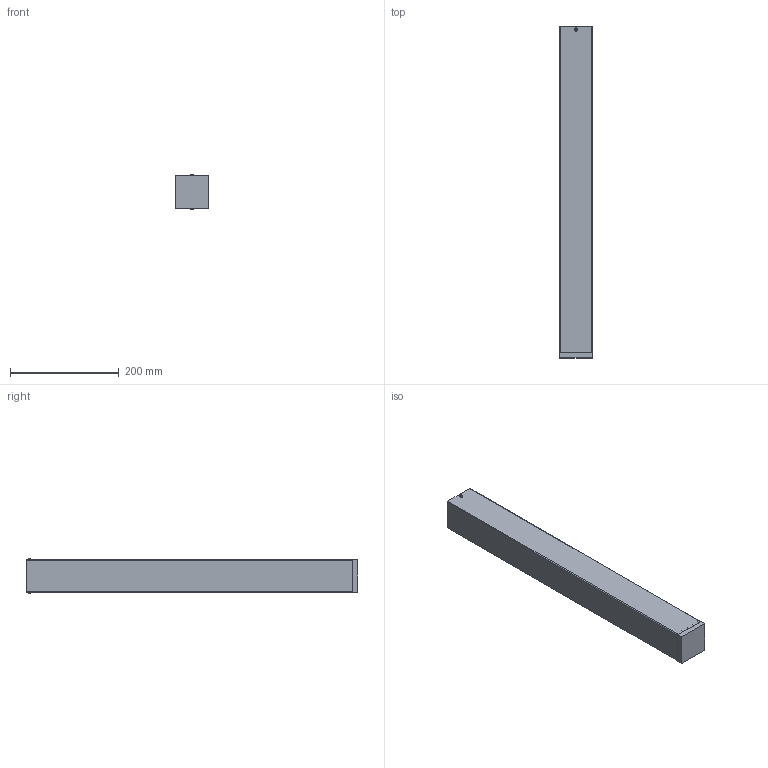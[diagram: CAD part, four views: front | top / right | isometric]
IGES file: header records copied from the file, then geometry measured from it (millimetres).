
Start section: SolidWorks IGES file using analytic representation for surfaces
Global section: file name: C:\Users\Asia\Desktop\Bryce\Bryce_5707,5711,5721\Bryce_5707,5711,5721.IGS; native system: SolidWorks 2016; preprocessor: SolidWorks 2016; author: Asia; date: 160829.082923; units: millimetre
Bounding box: 60 x 610 x 63.4 mm (x, y, z)
Surface area: 298250.2 mm2 (no closed solid volume)
Topology: 0 solids, 0 shells, 96 faces, 1308 edges, 1308 vertices
Faces by surface type: bspline 60, revolution 36
